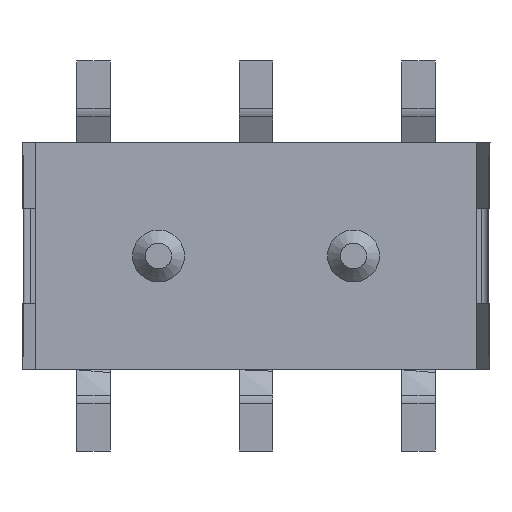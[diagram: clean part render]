
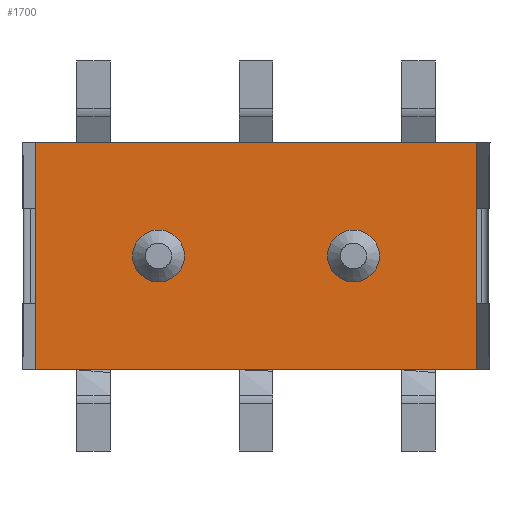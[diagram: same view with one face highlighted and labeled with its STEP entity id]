
A CAD part, front view. The second image highlights one B-rep face of the part: STEP entity #1700.
In plain terms, the highlighted planar face has unit normal (0, -1, 0).
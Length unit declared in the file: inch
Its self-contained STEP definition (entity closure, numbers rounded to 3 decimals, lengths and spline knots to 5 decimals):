
#544=ORIENTED_EDGE('',*,*,#836,.T.);
#545=ORIENTED_EDGE('',*,*,#842,.T.);
#546=ORIENTED_EDGE('',*,*,#855,.T.);
#547=ORIENTED_EDGE('',*,*,#845,.T.);
#836=EDGE_CURVE('',#1090,#1096,#1310,.T.);
#842=EDGE_CURVE('',#1096,#1101,#1314,.T.);
#845=EDGE_CURVE('',#1104,#1090,#1316,.T.);
#855=EDGE_CURVE('',#1101,#1104,#1324,.T.);
#1090=VERTEX_POINT('',#2782);
#1096=VERTEX_POINT('',#2801);
#1101=VERTEX_POINT('',#2819);
#1104=VERTEX_POINT('',#2832);
#1310=B_SPLINE_CURVE_WITH_KNOTS('',1,(#2802,#2803),.UNSPECIFIED.,.F.,.F.,
(2,2),(0.,1.),.UNSPECIFIED.);
#1314=B_SPLINE_CURVE_WITH_KNOTS('',1,(#2820,#2821),.UNSPECIFIED.,.F.,.F.,
(2,2),(0.,1.),.UNSPECIFIED.);
#1316=B_SPLINE_CURVE_WITH_KNOTS('',1,(#2830,#2831),.UNSPECIFIED.,.F.,.F.,
(2,2),(0.,1.),.UNSPECIFIED.);
#1324=B_SPLINE_CURVE_WITH_KNOTS('',1,(#2860,#2861),.UNSPECIFIED.,.F.,.F.,
(2,2),(0.,1.),.UNSPECIFIED.);
#1462=EDGE_LOOP('',(#544,#545,#546,#547));
#1548=FACE_BOUND('',#1462,.T.);
#1620=PLANE('',#1883);
#1700=ADVANCED_FACE('',(#1548),#1620,.T.);
#1883=AXIS2_PLACEMENT_3D('',#2874,#2134,#2135);
#2134=DIRECTION('',(0.,-1.,0.));
#2135=DIRECTION('',(0.,0.,-1.));
#2782=CARTESIAN_POINT('',(-0.13373,0.,-0.0689));
#2801=CARTESIAN_POINT('',(0.13373,0.,-0.0689));
#2802=CARTESIAN_POINT('',(-0.13373,0.,-0.0689));
#2803=CARTESIAN_POINT('',(0.13373,0.,-0.0689));
#2819=CARTESIAN_POINT('',(0.13373,0.,0.0689));
#2820=CARTESIAN_POINT('',(0.13373,0.,-0.0689));
#2821=CARTESIAN_POINT('',(0.13373,0.,0.0689));
#2830=CARTESIAN_POINT('',(-0.13373,0.,0.0689));
#2831=CARTESIAN_POINT('',(-0.13373,0.,-0.0689));
#2832=CARTESIAN_POINT('',(-0.13373,0.,0.0689));
#2860=CARTESIAN_POINT('',(0.13373,0.,0.0689));
#2861=CARTESIAN_POINT('',(-0.13373,0.,0.0689));
#2874=CARTESIAN_POINT('',(-0.14173,0.,-0.0689));
